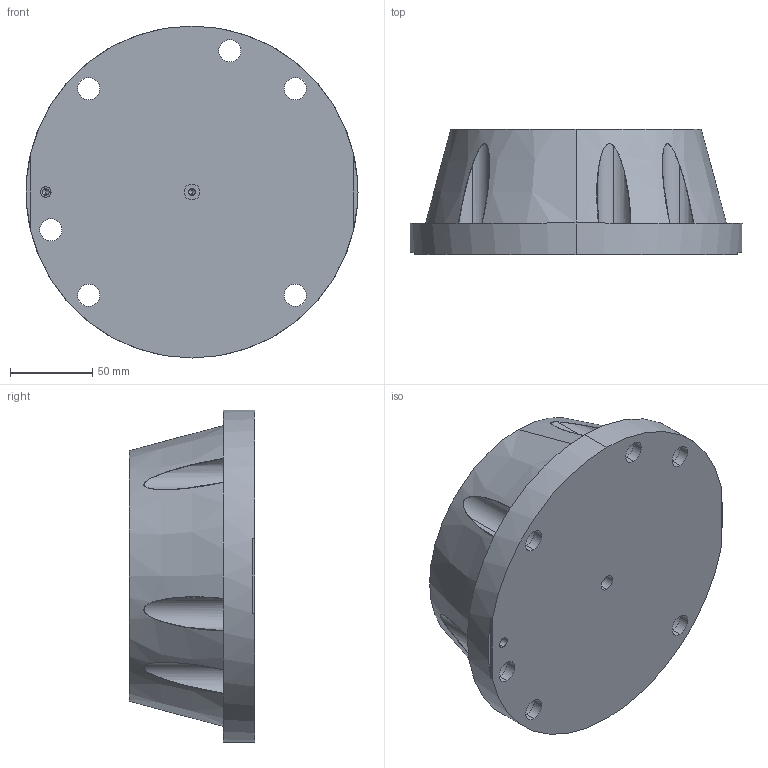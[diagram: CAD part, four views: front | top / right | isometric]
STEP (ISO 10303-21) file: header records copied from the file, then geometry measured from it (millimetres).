
FILE_DESCRIPTION (( 'STEP AP214' ), '1' );
FILE_NAME ('R347.STEP', '2015-10-02T19:00:09', ( '' ), ( '' ), 'SwSTEP 2.0', 'SolidWorks 2015', '' );
FILE_SCHEMA (( 'AUTOMOTIVE_DESIGN' ));
Length unit declared in the file: inch
Products named in the file (1): R347
Bounding box: 201.93 x 76.2 x 201.93 mm (x, y, z)
Volume: 2245604.8 mm3; surface area: 165087.8 mm2
Topology: 2 solids, 2 shells, 123 faces, 312 edges, 189 vertices
Faces by surface type: cylinder 62, cone 35, plane 20, bspline 6
Entity records: 5852 total; most frequent: CARTESIAN_POINT 2699, DIRECTION 637, ORIENTED_EDGE 584, EDGE_CURVE 292, AXIS2_PLACEMENT_3D 269, VERTEX_POINT 189, EDGE_LOOP 155, CIRCLE 151
